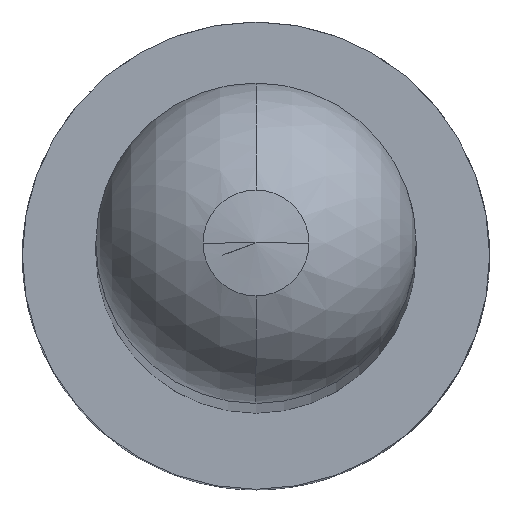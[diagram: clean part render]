
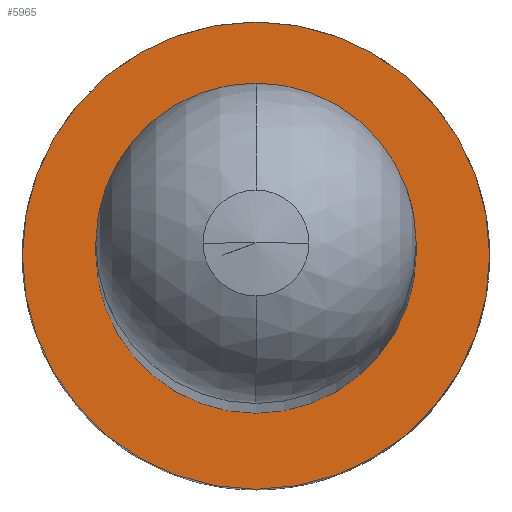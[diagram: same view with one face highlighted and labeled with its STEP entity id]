
A CAD part, top view. The second image highlights one B-rep face of the part: STEP entity #5965.
In plain terms, the highlighted planar face has unit normal (0, 0, 1).
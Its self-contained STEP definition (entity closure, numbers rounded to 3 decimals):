
#6 = AXIS2_PLACEMENT_3D ( 'NONE', #2896, #6157, #3452 ) ;
#99 = ORIENTED_EDGE ( 'NONE', *, *, #2437, .F. ) ;
#435 = CARTESIAN_POINT ( 'NONE',  ( 0., 0., -14.51 ) ) ;
#572 = DIRECTION ( 'NONE',  ( 0., 0., 1. ) ) ;
#1152 = ORIENTED_EDGE ( 'NONE', *, *, #1919, .F. ) ;
#1283 = CARTESIAN_POINT ( 'NONE',  ( 0., 0., -14.51 ) ) ;
#1340 = CIRCLE ( 'NONE', #3598, 1. ) ;
#1402 = EDGE_LOOP ( 'NONE', ( #2390, #5244 ) ) ;
#1533 = DIRECTION ( 'NONE',  ( 1., 0., 0. ) ) ;
#1646 = DIRECTION ( 'NONE',  ( 1., 0., 0. ) ) ;
#1726 = VERTEX_POINT ( 'NONE', #5797 ) ;
#1919 = EDGE_CURVE ( 'NONE', #1726, #2953, #5057, .T. ) ;
#2390 = ORIENTED_EDGE ( 'NONE', *, *, #6642, .T. ) ;
#2437 = EDGE_CURVE ( 'NONE', #2953, #1726, #5178, .T. ) ;
#2708 = DIRECTION ( 'NONE',  ( 0., 0., 1. ) ) ;
#2896 = CARTESIAN_POINT ( 'NONE',  ( 0., 1., -14.51 ) ) ;
#2953 = VERTEX_POINT ( 'NONE', #4588 ) ;
#3078 = AXIS2_PLACEMENT_3D ( 'NONE', #4834, #2708, #3273 ) ;
#3152 = CARTESIAN_POINT ( 'NONE',  ( 1., 0., -14.51 ) ) ;
#3273 = DIRECTION ( 'NONE',  ( 1., 0., 0. ) ) ;
#3399 = DIRECTION ( 'NONE',  ( 1., 0., 0. ) ) ;
#3452 = DIRECTION ( 'NONE',  ( -1., 0., 0. ) ) ;
#3598 = AXIS2_PLACEMENT_3D ( 'NONE', #1283, #6567, #3399 ) ;
#3863 = VERTEX_POINT ( 'NONE', #3152 ) ;
#3880 = VERTEX_POINT ( 'NONE', #5350 ) ;
#3936 = AXIS2_PLACEMENT_3D ( 'NONE', #435, #572, #1533 ) ;
#4588 = CARTESIAN_POINT ( 'NONE',  ( -0.455, 0., -14.51 ) ) ;
#4762 = EDGE_LOOP ( 'NONE', ( #1152, #99 ) ) ;
#4794 = EDGE_CURVE ( 'NONE', #3880, #3863, #1340, .T. ) ;
#4834 = CARTESIAN_POINT ( 'NONE',  ( 0., 0., -14.51 ) ) ;
#5018 = PLANE ( 'NONE',  #6 ) ;
#5057 = CIRCLE ( 'NONE', #6197, 0.455 ) ;
#5091 = FACE_OUTER_BOUND ( 'NONE', #1402, .T. ) ;
#5178 = CIRCLE ( 'NONE', #3936, 0.455 ) ;
#5244 = ORIENTED_EDGE ( 'NONE', *, *, #4794, .T. ) ;
#5350 = CARTESIAN_POINT ( 'NONE',  ( -1., 0., -14.51 ) ) ;
#5541 = CARTESIAN_POINT ( 'NONE',  ( 0., 0., -14.51 ) ) ;
#5573 = DIRECTION ( 'NONE',  ( 0., 0., 1. ) ) ;
#5623 = FACE_BOUND ( 'NONE', #4762, .T. ) ;
#5797 = CARTESIAN_POINT ( 'NONE',  ( 0.455, 0., -14.51 ) ) ;
#5965 = ADVANCED_FACE ( 'NONE', ( #5623, #5091 ), #5018, .F. ) ;
#6157 = DIRECTION ( 'NONE',  ( 0., 0., -1. ) ) ;
#6197 = AXIS2_PLACEMENT_3D ( 'NONE', #5541, #5573, #1646 ) ;
#6567 = DIRECTION ( 'NONE',  ( 0., 0., 1. ) ) ;
#6642 = EDGE_CURVE ( 'NONE', #3863, #3880, #6819, .T. ) ;
#6819 = CIRCLE ( 'NONE', #3078, 1. ) ;
